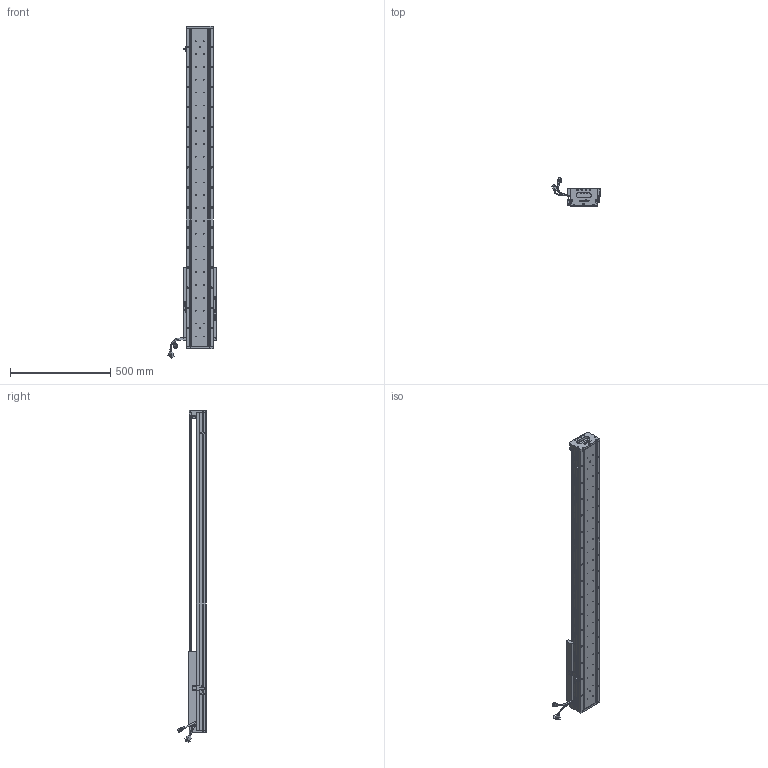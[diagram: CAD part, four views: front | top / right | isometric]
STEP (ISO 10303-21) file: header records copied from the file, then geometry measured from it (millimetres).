
FILE_DESCRIPTION (( 'STEP AP203' ), '1' );
FILE_NAME ('Z5-RY140D-1-L500-B-K.SLDASM_1150.step', '2021-05-17T08:36:04', ( '盈信电脑' ), ( '东莞市道滘镇水果街19号' ), 'SwSTEP 2.0', 'SolidWorks 2016', '' );
FILE_SCHEMA (( 'CONFIG_CONTROL_DESIGN' ));
Length unit declared in the file: millimetre
Products named in the file (36): PSLH080_PSLF2; Z5-RY140D-1-L500-B-K.SLDASM_1150; 140雄赽晤鎢ん堤盄; SCREW-M1.6-3; SCREW-M1.7; 覜茼ん672; Z-140詩湍傷裔啣; COVER-Part-1; 榋妏寠巭燃_暯_M2_2; HARNESS-Part-1; SCALE-Part-1; LABEL; Z5-RY140-L500直线电机模组底座_1150; PBU_SHEET; HARNESS; SCREW-M1.6; 詩湍奻揤裔; 詩湍狟揤裔; HOLDER0; SCREW-M1.7-1; SEAL; SCALE-Part-2; 080黍杅芛假蚾釱21遴; SHIELDPLATE; HARNESS-Part-2; SCREW-M1.6-1; Z-RY140感应器672光电感应片; SEAL-Part-1; LABEL-Part-1; Z5-RY140圉猾敕臏賑輸(21遴); 140-Z-臏賑輸盄裔(21遴); COVER; SCREW-M1.6-2; Z5-RY140-L500詩湍100mm遵_1150; SCALE; 140蚥薯蝶輸
Assembly tree (41 placements, depth 4):
  Z5-RY140D-1-L500-B-K.SLDASM_1150
    Z5-RY140-L500直线电机模组底座_1150
    Z-RY140感应器672光电感应片
    Z5-RY140圉猾敕臏賑輸(21遴)
    覜茼ん672  x3
    Z5-RY140-L500詩湍100mm遵_1150
    PSLH080_PSLF2
      SCALE
        SCALE-Part-1
        SCALE-Part-2
      HARNESS
        HARNESS-Part-1
        HARNESS-Part-2
      LABEL
        LABEL-Part-1
      COVER
        COVER-Part-1
      SEAL
        SEAL-Part-1
      榋妏寠巭燃_暯_M2_2
      SHIELDPLATE
      SCREW-M1.7
      SCREW-M1.7-1
      PBU_SHEET
      SCREW-M1.6
      SCREW-M1.6-1
      SCREW-M1.6-2
      SCREW-M1.6-3
      HOLDER0
    080黍杅芛假蚾釱21遴
    140-Z-臏賑輸盄裔(21遴)
    Z-140詩湍傷裔啣  x2
    詩湍狟揤裔  x2
    詩湍奻揤裔  x2
    140蚥薯蝶輸  x2
    140雄赽晤鎢ん堤盄
Bounding box: 239.83 x 143.88 x 1655.87 mm (x, y, z)
Volume: 6078969.5 mm3; surface area: 1534911.6 mm2
Topology: 36 solids, 36 shells, 3410 faces, 9098 edges, 5761 vertices
Faces by surface type: cylinder 1722, plane 1228, cone 338, torus 69, bspline 53
Entity records: 103290 total; most frequent: CARTESIAN_POINT 27117, ORIENTED_EDGE 15244, DIRECTION 14778, EDGE_CURVE 7622, AXIS2_PLACEMENT_3D 5486, VERTEX_POINT 4929, VECTOR 3806, LINE 3806
